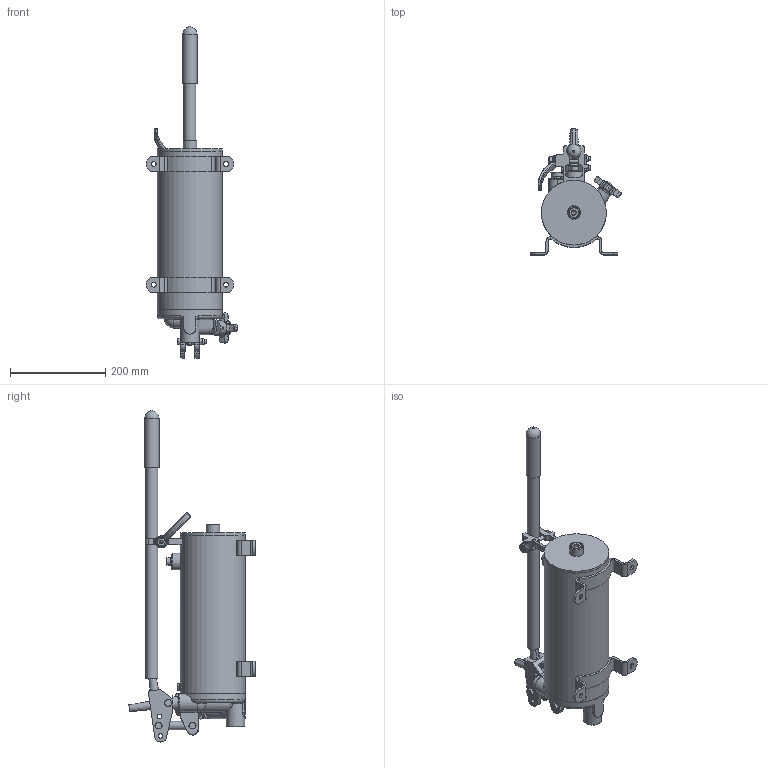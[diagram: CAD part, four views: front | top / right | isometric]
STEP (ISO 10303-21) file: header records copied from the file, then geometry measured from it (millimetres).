
FILE_DESCRIPTION((''),'2;1');
FILE_NAME('C:\Vault\Workspace\Vest\PM-HP-5B\PM-HP-10B.stp','2010-07-14T13:08:45',('NewtonB'),(''),'Autodesk Inventor 2010','Autodesk Inventor 2010','');
FILE_SCHEMA(('AUTOMOTIVE_DESIGN { 1 0 10303 214 1 1 1 1 }'));
Length unit declared in the file: inch
Products named in the file (45): PM-HP-10B; 062100116; 162100035; 162100034; 200014408; 052100031; 200300211; 180701017; 180901072; 090000121; 080600005; 010300003; 270003020; 180901070; 230001045; 180901069; 270003016; 200013922; 190300026; 090000002; 170004150; 180901073; 050400123; 230010331; 170002089; 220000203; 180901068; 200300202; 190100047; 200018003; 170002005; 220001005; 230007501-RING; 180901514; 180901026; 190300037; 190100013; 180901515; 230009003; 200100013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
Assembly tree (51 placements, depth 4):
  PM-HP-10B
    062100116
      162100035
        162100034
        200014408
      052100031
      200300211
      180701017  x2
      180901072
    090000121
    080600005
    010300003
    270003020
      180901070
      230001045
      180901069
      270003016
    200013922
    190300026
    090000002
    170004150
    180901073
    050400123
    230010331
    170002089  x3
    220000203  x3
    180901068
      200300202
      190100047
    200018003
    170002005
    220001005
    230007501-RING
    180901514
      180901026
      190300037
      190100013
    180901515
    190100013
    230009003
    200100013  x2
    270002006
    230009001
    230008003
    200300003
    200018002
Bounding box: 193.04 x 265.7 x 698.76 mm (x, y, z)
Volume: 1842729 mm3; surface area: 684027.4 mm2
Topology: 46 solids, 46 shells, 1060 faces, 2557 edges, 1610 vertices
Faces by surface type: plane 454, cylinder 263, bspline 173, cone 125, torus 33, sphere 12
Full cylindrical faces by diameter (mm): 0.505 x2, 4.763 x3, 4.877 x1, 5.537 x2, 6.35 x2, 7.925 x1, 7.938 x2, 8.334 x2, 9.493 x3, 9.525 x3, 9.576 x11, 10.084 x2, 10.319 x4, 10.996 x1, 11.354 x2, 11.506 x2, 12.116 x1, 13.462 x1, 14.097 x2, 14.348 x1, 14.529 x1, 15.723 x1, 15.875 x2, 17.463 x3, 17.526 x2, 19.05 x1, 19.304 x1, 21.336 x1, 21.869 x1, 22.428 x1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
Entity records: 34571 total; most frequent: CARTESIAN_POINT 12965, ORIENTED_EDGE 4086, DIRECTION 4062, EDGE_CURVE 2043, AXIS2_PLACEMENT_3D 1586, VERTEX_POINT 1391, EDGE_LOOP 1256, FACE_OUTER_BOUND 948
